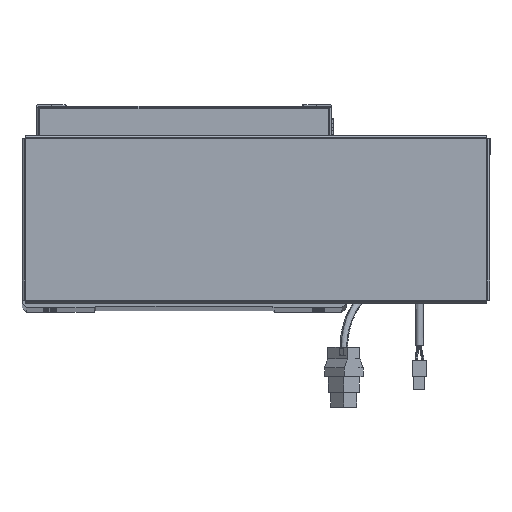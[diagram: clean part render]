
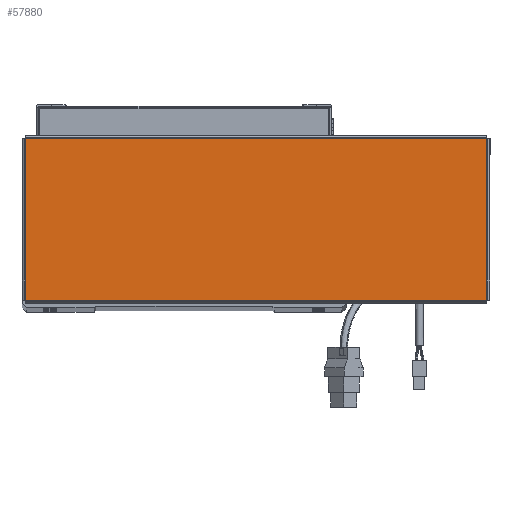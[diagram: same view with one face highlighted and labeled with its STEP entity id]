
A CAD part, top view. The second image highlights one B-rep face of the part: STEP entity #57880.
In plain terms, the highlighted planar face has unit normal (0, 0, 1).
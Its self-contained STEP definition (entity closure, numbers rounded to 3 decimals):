
#1507 = DIRECTION ( 'NONE',  ( 0., 1., 0. ) ) ;
#4466 = PLANE ( 'NONE',  #29392 ) ;
#4522 = CARTESIAN_POINT ( 'NONE',  ( -156.543, -54.763, 0. ) ) ;
#4746 = VERTEX_POINT ( 'NONE', #45503 ) ;
#7386 = EDGE_CURVE ( 'NONE', #4746, #48870, #66584, .T. ) ;
#7737 = VECTOR ( 'NONE', #1507, 1000. ) ;
#8463 = ORIENTED_EDGE ( 'NONE', *, *, #7386, .T. ) ;
#13524 = LINE ( 'NONE', #14034, #32829 ) ;
#14034 = CARTESIAN_POINT ( 'NONE',  ( 156.543, 54.763, 0. ) ) ;
#18714 = EDGE_CURVE ( 'NONE', #48870, #46157, #29583, .T. ) ;
#20341 = EDGE_LOOP ( 'NONE', ( #8463, #53658, #41894, #28568 ) ) ;
#20875 = DIRECTION ( 'NONE',  ( 0., 0., 1. ) ) ;
#22784 = FACE_OUTER_BOUND ( 'NONE', #20341, .T. ) ;
#23949 = DIRECTION ( 'NONE',  ( 0., -1., 0. ) ) ;
#28568 = ORIENTED_EDGE ( 'NONE', *, *, #31014, .T. ) ;
#29392 = AXIS2_PLACEMENT_3D ( 'NONE', #69014, #20875, #37059 ) ;
#29583 = LINE ( 'NONE', #60822, #7737 ) ;
#30611 = DIRECTION ( 'NONE',  ( 1., 0., 0. ) ) ;
#31014 = EDGE_CURVE ( 'NONE', #31030, #4746, #45975, .T. ) ;
#31030 = VERTEX_POINT ( 'NONE', #55358 ) ;
#32829 = VECTOR ( 'NONE', #63010, 1000. ) ;
#37059 = DIRECTION ( 'NONE',  ( 1., 0., 0. ) ) ;
#40253 = CARTESIAN_POINT ( 'NONE',  ( 156.513, 54.763, 0. ) ) ;
#41894 = ORIENTED_EDGE ( 'NONE', *, *, #58322, .T. ) ;
#45503 = CARTESIAN_POINT ( 'NONE',  ( -156.513, -54.763, 0. ) ) ;
#45975 = LINE ( 'NONE', #55823, #50212 ) ;
#46157 = VERTEX_POINT ( 'NONE', #40253 ) ;
#46417 = VECTOR ( 'NONE', #30611, 1000. ) ;
#48870 = VERTEX_POINT ( 'NONE', #49186 ) ;
#49186 = CARTESIAN_POINT ( 'NONE',  ( 156.513, -54.763, 0. ) ) ;
#50212 = VECTOR ( 'NONE', #23949, 1000. ) ;
#53658 = ORIENTED_EDGE ( 'NONE', *, *, #18714, .T. ) ;
#55358 = CARTESIAN_POINT ( 'NONE',  ( -156.513, 54.763, 0. ) ) ;
#55823 = CARTESIAN_POINT ( 'NONE',  ( -156.513, 54.793, 0. ) ) ;
#57880 = ADVANCED_FACE ( 'NONE', ( #22784 ), #4466, .T. ) ;
#58322 = EDGE_CURVE ( 'NONE', #46157, #31030, #13524, .T. ) ;
#60822 = CARTESIAN_POINT ( 'NONE',  ( 156.513, -54.793, 0. ) ) ;
#63010 = DIRECTION ( 'NONE',  ( -1., 0., 0. ) ) ;
#66584 = LINE ( 'NONE', #4522, #46417 ) ;
#69014 = CARTESIAN_POINT ( 'NONE',  ( 0., 0., 0. ) ) ;
